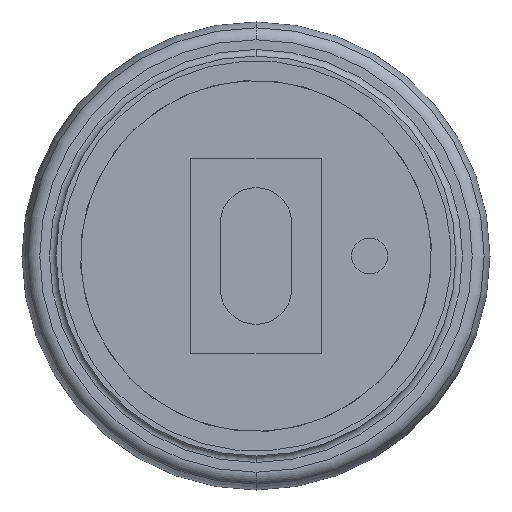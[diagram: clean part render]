
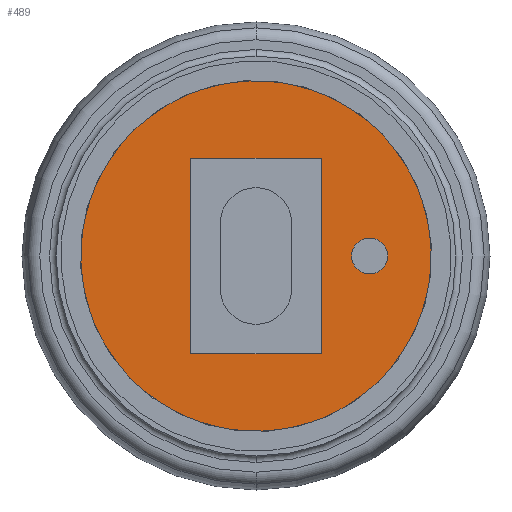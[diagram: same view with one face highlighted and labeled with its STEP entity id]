
A CAD part, left-side view. The second image highlights one B-rep face of the part: STEP entity #489.
In plain terms, the highlighted planar face has unit normal (-1, 0, 0) as drawn and (0, 0, 1) by its records, which use the part's own axes.
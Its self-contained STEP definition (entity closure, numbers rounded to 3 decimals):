
#18 = VERTEX_POINT ( 'NONE', #1886 ) ;
#28 = VECTOR ( 'NONE', #1624, 1000. ) ;
#55 = DIRECTION ( 'NONE',  ( 1., 0., 0. ) ) ;
#57 = DIRECTION ( 'NONE',  ( 0., 0., 1. ) ) ;
#59 = DIRECTION ( 'NONE',  ( 1., 0., 0. ) ) ;
#109 = CIRCLE ( 'NONE', #1319, 2.7 ) ;
#143 = AXIS2_PLACEMENT_3D ( 'NONE', #2009, #1027, #55 ) ;
#199 = ORIENTED_EDGE ( 'NONE', *, *, #531, .T. ) ;
#209 = CIRCLE ( 'NONE', #143, 2.7 ) ;
#234 = LINE ( 'NONE', #724, #475 ) ;
#258 = DIRECTION ( 'NONE',  ( 1., 0., 0. ) ) ;
#268 = EDGE_CURVE ( 'NONE', #752, #1557, #1184, .T. ) ;
#331 = AXIS2_PLACEMENT_3D ( 'NONE', #1553, #57, #1030 ) ;
#345 = CARTESIAN_POINT ( 'NONE',  ( -2.7, -0.096, 0. ) ) ;
#394 = CARTESIAN_POINT ( 'NONE',  ( 1.748, -0.096, 0. ) ) ;
#397 = DIRECTION ( 'NONE',  ( -1., 0., 0. ) ) ;
#399 = DIRECTION ( 'NONE',  ( 0., 0., 1. ) ) ;
#456 = EDGE_CURVE ( 'NONE', #715, #878, #1660, .T. ) ;
#463 = ORIENTED_EDGE ( 'NONE', *, *, #1905, .F. ) ;
#475 = VECTOR ( 'NONE', #397, 1000. ) ;
#489 = ADVANCED_FACE ( 'NONE', ( #687, #1916, #1042 ), #2036, .T. ) ;
#493 = EDGE_CURVE ( 'NONE', #1982, #18, #109, .T. ) ;
#506 = AXIS2_PLACEMENT_3D ( 'NONE', #1881, #399, #59 ) ;
#531 = EDGE_CURVE ( 'NONE', #18, #1982, #209, .T. ) ;
#542 = EDGE_CURVE ( 'NONE', #2104, #752, #888, .T. ) ;
#557 = ORIENTED_EDGE ( 'NONE', *, *, #268, .F. ) ;
#560 = DIRECTION ( 'NONE',  ( 0., 0., 1. ) ) ;
#590 = CARTESIAN_POINT ( 'NONE',  ( -1., 1.404, 0. ) ) ;
#660 = EDGE_CURVE ( 'NONE', #878, #715, #1391, .T. ) ;
#671 = CARTESIAN_POINT ( 'NONE',  ( -1., -1.596, 0. ) ) ;
#673 = ORIENTED_EDGE ( 'NONE', *, *, #710, .F. ) ;
#687 = FACE_BOUND ( 'NONE', #1083, .T. ) ;
#710 = EDGE_CURVE ( 'NONE', #1557, #1622, #234, .T. ) ;
#715 = VERTEX_POINT ( 'NONE', #2026 ) ;
#724 = CARTESIAN_POINT ( 'NONE',  ( 1., 1.404, 0. ) ) ;
#752 = VERTEX_POINT ( 'NONE', #1528 ) ;
#757 = AXIS2_PLACEMENT_3D ( 'NONE', #394, #560, #258 ) ;
#759 = LINE ( 'NONE', #1773, #2087 ) ;
#867 = DIRECTION ( 'NONE',  ( 1., 0., 0. ) ) ;
#878 = VERTEX_POINT ( 'NONE', #2065 ) ;
#888 = LINE ( 'NONE', #1845, #1362 ) ;
#1027 = DIRECTION ( 'NONE',  ( 0., 0., 1. ) ) ;
#1030 = DIRECTION ( 'NONE',  ( 1., 0., 0. ) ) ;
#1042 = FACE_BOUND ( 'NONE', #1527, .T. ) ;
#1083 = EDGE_LOOP ( 'NONE', ( #673, #557, #1404, #463 ) ) ;
#1090 = DIRECTION ( 'NONE',  ( 0., 0., 1. ) ) ;
#1128 = CARTESIAN_POINT ( 'NONE',  ( 1., 1.404, 0. ) ) ;
#1184 = LINE ( 'NONE', #1128, #28 ) ;
#1212 = ORIENTED_EDGE ( 'NONE', *, *, #660, .F. ) ;
#1216 = EDGE_LOOP ( 'NONE', ( #199, #2022 ) ) ;
#1319 = AXIS2_PLACEMENT_3D ( 'NONE', #2067, #1090, #2041 ) ;
#1362 = VECTOR ( 'NONE', #867, 1000. ) ;
#1391 = CIRCLE ( 'NONE', #331, 0.276 ) ;
#1404 = ORIENTED_EDGE ( 'NONE', *, *, #542, .F. ) ;
#1527 = EDGE_LOOP ( 'NONE', ( #1212, #1705 ) ) ;
#1528 = CARTESIAN_POINT ( 'NONE',  ( 1., -1.596, 0. ) ) ;
#1553 = CARTESIAN_POINT ( 'NONE',  ( 1.748, -0.096, 0. ) ) ;
#1557 = VERTEX_POINT ( 'NONE', #1693 ) ;
#1622 = VERTEX_POINT ( 'NONE', #590 ) ;
#1624 = DIRECTION ( 'NONE',  ( 0., 1., 0. ) ) ;
#1660 = CIRCLE ( 'NONE', #757, 0.276 ) ;
#1693 = CARTESIAN_POINT ( 'NONE',  ( 1., 1.404, 0. ) ) ;
#1705 = ORIENTED_EDGE ( 'NONE', *, *, #456, .F. ) ;
#1773 = CARTESIAN_POINT ( 'NONE',  ( -1., 1.404, 0. ) ) ;
#1845 = CARTESIAN_POINT ( 'NONE',  ( 1., -1.596, 0. ) ) ;
#1881 = CARTESIAN_POINT ( 'NONE',  ( 0., -0.096, 0. ) ) ;
#1886 = CARTESIAN_POINT ( 'NONE',  ( 2.7, -0.096, 0. ) ) ;
#1905 = EDGE_CURVE ( 'NONE', #1622, #2104, #759, .T. ) ;
#1916 = FACE_OUTER_BOUND ( 'NONE', #1216, .T. ) ;
#1952 = DIRECTION ( 'NONE',  ( 0., -1., 0. ) ) ;
#1982 = VERTEX_POINT ( 'NONE', #345 ) ;
#2009 = CARTESIAN_POINT ( 'NONE',  ( 0., -0.096, 0. ) ) ;
#2022 = ORIENTED_EDGE ( 'NONE', *, *, #493, .T. ) ;
#2026 = CARTESIAN_POINT ( 'NONE',  ( 2.024, -0.096, 0. ) ) ;
#2036 = PLANE ( 'NONE',  #506 ) ;
#2041 = DIRECTION ( 'NONE',  ( 1., 0., 0. ) ) ;
#2065 = CARTESIAN_POINT ( 'NONE',  ( 1.471, -0.096, 0. ) ) ;
#2067 = CARTESIAN_POINT ( 'NONE',  ( 0., -0.096, 0. ) ) ;
#2087 = VECTOR ( 'NONE', #1952, 1000. ) ;
#2104 = VERTEX_POINT ( 'NONE', #671 ) ;
